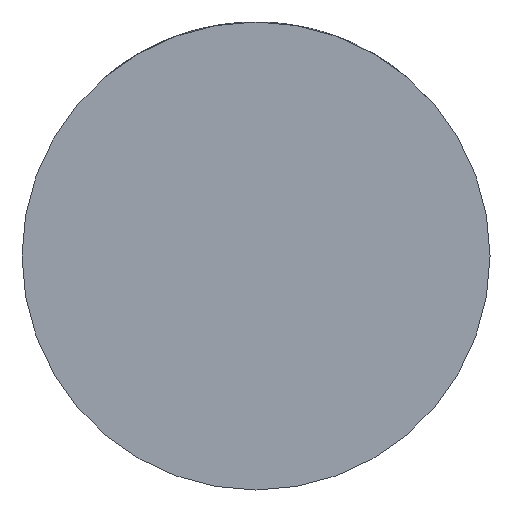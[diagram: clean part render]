
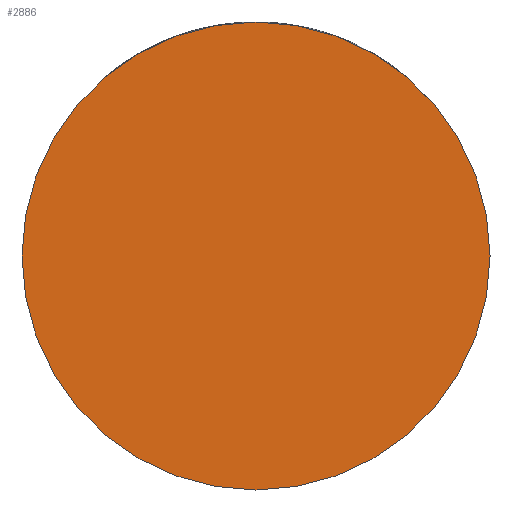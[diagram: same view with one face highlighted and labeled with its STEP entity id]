
A CAD part, front view. The second image highlights one B-rep face of the part: STEP entity #2886.
In plain terms, the highlighted planar face has unit normal (0, -1, 0).
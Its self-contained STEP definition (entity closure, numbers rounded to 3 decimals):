
#9 = DIRECTION ( 'NONE',  ( 1., 0., 0. ) ) ;
#59 = DIRECTION ( 'NONE',  ( 0., -1., 0. ) ) ;
#79 = FACE_OUTER_BOUND ( 'NONE', #677, .T. ) ;
#380 = CARTESIAN_POINT ( 'NONE',  ( 0., -33., 0. ) ) ;
#473 = ORIENTED_EDGE ( 'NONE', *, *, #3787, .T. ) ;
#535 = AXIS2_PLACEMENT_3D ( 'NONE', #380, #3882, #9 ) ;
#545 = AXIS2_PLACEMENT_3D ( 'NONE', #1043, #3206, #2773 ) ;
#603 = CARTESIAN_POINT ( 'NONE',  ( -29.5, -33., 0. ) ) ;
#677 = EDGE_LOOP ( 'NONE', ( #473, #1909 ) ) ;
#692 = CIRCLE ( 'NONE', #545, 29.5 ) ;
#781 = DIRECTION ( 'NONE',  ( 1., 0., 0. ) ) ;
#1017 = EDGE_CURVE ( 'NONE', #1459, #2498, #692, .T. ) ;
#1043 = CARTESIAN_POINT ( 'NONE',  ( 0., -33., 0. ) ) ;
#1223 = CARTESIAN_POINT ( 'NONE',  ( 29.5, -33., 0. ) ) ;
#1459 = VERTEX_POINT ( 'NONE', #1223 ) ;
#1909 = ORIENTED_EDGE ( 'NONE', *, *, #1017, .T. ) ;
#2278 = CIRCLE ( 'NONE', #535, 29.5 ) ;
#2498 = VERTEX_POINT ( 'NONE', #603 ) ;
#2773 = DIRECTION ( 'NONE',  ( 1., 0., 0. ) ) ;
#2886 = ADVANCED_FACE ( 'NONE', ( #79 ), #3566, .T. ) ;
#3206 = DIRECTION ( 'NONE',  ( 0., -1., 0. ) ) ;
#3566 = PLANE ( 'NONE',  #4459 ) ;
#3787 = EDGE_CURVE ( 'NONE', #2498, #1459, #2278, .T. ) ;
#3882 = DIRECTION ( 'NONE',  ( 0., -1., 0. ) ) ;
#4459 = AXIS2_PLACEMENT_3D ( 'NONE', #4541, #59, #781 ) ;
#4541 = CARTESIAN_POINT ( 'NONE',  ( 0., -33., 0. ) ) ;
